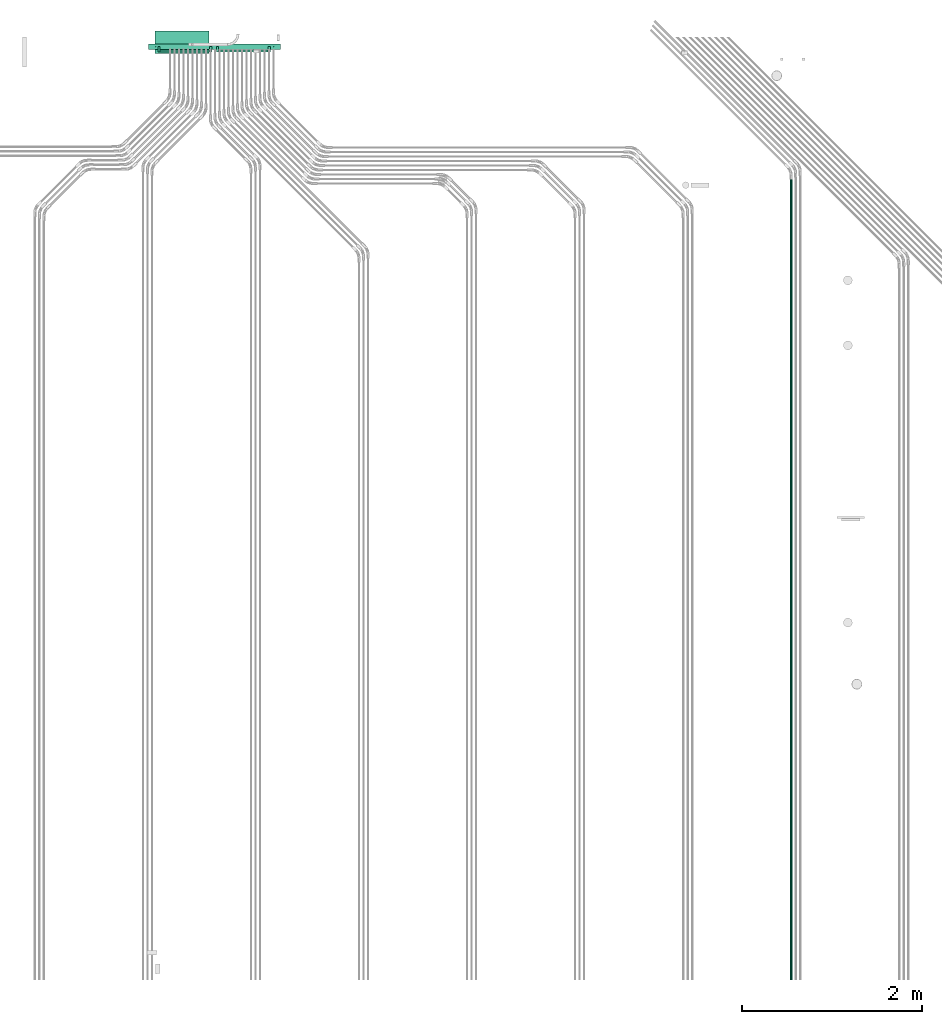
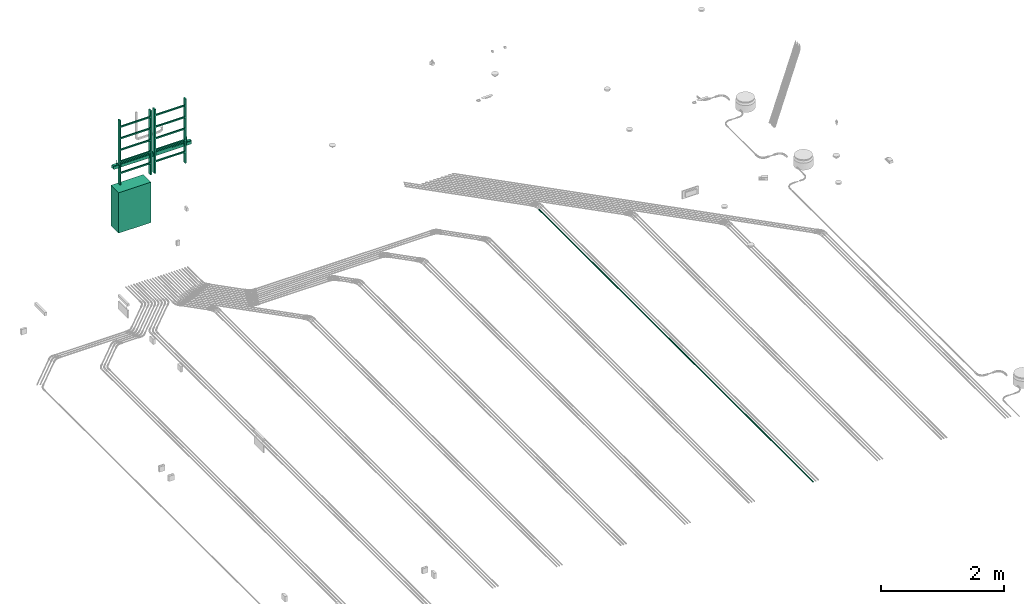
# One storey, part 42 of 51: 3 flow segments, 1 flow controller, 1 flow terminal.
"""IFC2X3 building model written with IfcOpenShell, lengths in millimetres."""

import ifcopenshell
import ifcopenshell.guid

model = None  # the IFC model being written
_history = None  # IfcOwnerHistory: only IFC2X3 demands one
_inside = {}  # id of a spatial element -> (the spatial element, [elements in it])
_under = {}  # id of a project, library or spatial element -> (it, [spatial elements below it])
_declared = {}  # id of a project -> (the project, [libraries it declares])
_typed = {}  # id of a type object -> (the type object, [elements of that type])
_made_of = {}  # id of a material, layer set ... -> (it, [elements and type objects made of it])


def new_model(schema):
    """Start an empty IFC model of exactly this schema.

    Asked for "IFC4X3", IfcOpenShell would pick the latest addendum, in which some entities
    have other attributes; the version numbers below select the first issue.
    IFC2X3 requires an IfcOwnerHistory on every rooted entity: one is made here for all.
    """
    global model, _history
    if schema == "IFC4X3":
        model = ifcopenshell.file(schema_version=(4, 3, 0, 0))
    else:
        model = ifcopenshell.file(schema=schema)
    _inside.clear()
    _under.clear()
    _declared.clear()
    _typed.clear()
    _made_of.clear()
    _history = None
    if model.schema == "IFC2X3":
        org = make("IfcOrganization", Name="unknown")
        user = make(
            "IfcPersonAndOrganization",
            ThePerson=make("IfcPerson", FamilyName="unknown"),
            TheOrganization=org,
        )
        app = make(
            "IfcApplication",
            ApplicationDeveloper=org,
            Version="unknown",
            ApplicationFullName="unknown",
            ApplicationIdentifier="unknown",
        )
        _history = make(
            "IfcOwnerHistory",
            OwningUser=user,
            OwningApplication=app,
            ChangeAction="ADDED",
            CreationDate=0,
        )
    return model


def make(cls, **values):
    """One entity of the class cls with the attributes given. An attribute that is None is left unset."""
    return model.create_entity(
        cls, **{name: value for name, value in values.items() if value is not None}
    )


def entity(cls, *values):
    """Any entity or typed value of the class cls, its attributes in the order of the schema. None: left unset."""
    e = model.create_entity(cls)
    for i, value in enumerate(values):
        if value is not None:
            e[i] = value
    return e


def rooted(cls, **values):
    """An entity with a GlobalId (a new one), such as an element, a storey or a relation."""
    return make(cls, GlobalId=ifcopenshell.guid.new(), OwnerHistory=_history, **values)


def si_unit(unit_type, name, prefix=None):
    """IfcSIUnit, for example si_unit("LENGTHUNIT", "METRE", prefix="MILLI")."""
    return make("IfcSIUnit", UnitType=unit_type, Prefix=prefix, Name=name)


def converted_unit(unit_type, name, factor, base, dimensions=None, offset=None):
    """IfcConversionBasedUnit, such as the inch: factor (a typed value) times the base unit."""
    return make(
        "IfcConversionBasedUnit"
        if offset is None
        else "IfcConversionBasedUnitWithOffset",
        ConversionOffset=offset,
        Dimensions=None
        if dimensions is None
        else entity("IfcDimensionalExponents", *dimensions),
        UnitType=unit_type,
        Name=name,
        ConversionFactor=make(
            "IfcMeasureWithUnit", ValueComponent=factor, UnitComponent=base
        ),
    )


def derived_unit(unit_type, elements):
    """IfcDerivedUnit: a product of units, each with its exponent."""
    return make(
        "IfcDerivedUnit",
        Elements=[
            make("IfcDerivedUnitElement", Unit=unit, Exponent=power)
            for unit, power in elements
        ],
        UnitType=unit_type,
    )


def assignment(units):
    """IfcUnitAssignment: the units of a project."""
    return None if units is None else make("IfcUnitAssignment", Units=units)


def point(xyz):
    """IfcCartesianPoint."""
    return None if xyz is None else make("IfcCartesianPoint", Coordinates=xyz)


def direction(xyz):
    """IfcDirection."""
    return None if xyz is None else make("IfcDirection", DirectionRatios=xyz)


def frame(location, z_axis=None, x_axis=None):
    """IfcAxis2Placement3D, a coordinate frame: its origin and axes. An axis left out is left unset."""
    return make(
        "IfcAxis2Placement3D",
        Location=point(location),
        Axis=direction(z_axis),
        RefDirection=direction(x_axis),
    )


def origin_with_axes():
    """The frame at (0, 0, 0) with the z axis (0, 0, 1) and the x axis (1, 0, 0) written out."""
    return frame((0.0, 0.0, 0.0), z_axis=(0.0, 0.0, 1.0), x_axis=(1.0, 0.0, 0.0))


def place(relative_to, where):
    """IfcLocalPlacement: puts the frame where relative to a parent placement (None: the world)."""
    return make(
        "IfcLocalPlacement", PlacementRelTo=relative_to, RelativePlacement=where
    )


def context(
    kind, dimensions, precision=None, world=None, true_north=None, identifier=None
):
    """IfcGeometricRepresentationContext, for example the 3D "Model" context."""
    return make(
        "IfcGeometricRepresentationContext",
        ContextIdentifier=identifier,
        ContextType=kind,
        CoordinateSpaceDimension=dimensions,
        Precision=precision,
        WorldCoordinateSystem=world,
        TrueNorth=true_north,
    )


def subcontext(parent, identifier, kind, view, scale=None):
    """IfcGeometricRepresentationSubContext, for example "Body" below "Model"."""
    return make(
        "IfcGeometricRepresentationSubContext",
        ContextIdentifier=identifier,
        ContextType=kind,
        ParentContext=parent,
        TargetScale=scale,
        TargetView=view,
    )


def project(units=None, contexts=None):
    """IfcProject with its units and contexts."""
    return rooted(
        "IfcProject",
        Name="project",
        RepresentationContexts=contexts,
        UnitsInContext=assignment(units),
    )


def spatial(cls, under=None, at=None, **own):
    """A site, building, storey or space (cls), placed at a placement, below another one or the project."""
    s = rooted(cls, ObjectPlacement=at, **own)
    if under is not None:
        _under.setdefault(under.id(), (under, []))[1].append(s)
    return s


def faces_of(points, faces, orient=None, outer=None):
    """IfcFace entities. A face is a list of loops; a loop is a list of indices into points, from 0.

    orient and outer hold one flag for each loop. By default every Orientation is true, the
    first loop of a face is its IfcFaceOuterBound and the others are IfcFaceBound.
    """
    made = []
    for i, loops in enumerate(faces):
        bounds = []
        for j, loop in enumerate(loops):
            is_outer = j == 0 if outer is None else outer[i][j]
            bounds.append(
                make(
                    "IfcFaceOuterBound" if is_outer else "IfcFaceBound",
                    Bound=make("IfcPolyLoop", Polygon=[points[k] for k in loop]),
                    Orientation=True if orient is None else orient[i][j],
                )
            )
        made.append(make("IfcFace", Bounds=bounds))
    return made


def open_shell(faces, orient=None, outer=None):
    """The faces of one IfcOpenShell. surface_model builds it on its shared points."""
    return ("IfcOpenShell", faces, orient, outer)


def faceted_brep(points, faces, orient=None, outer=None, voids=None):
    """IfcFacetedBrep: a solid bounded by flat faces; with voids (closed shells), ...WithVoids."""
    shared = [point(p) for p in points]
    hull = make("IfcClosedShell", CfsFaces=faces_of(shared, faces, orient, outer))
    if voids is None:
        return make("IfcFacetedBrep", Outer=hull)
    return make(
        "IfcFacetedBrepWithVoids",
        Outer=hull,
        Voids=[
            make(cls, CfsFaces=faces_of(shared, fs, o, b)) for cls, fs, o, b in voids
        ],
    )


def surface_model(cls, points, shells):
    """IfcFaceBasedSurfaceModel or IfcShellBasedSurfaceModel (cls): surfaces that need not close."""
    shared = [point(p) for p in points]
    made = [make(c, CfsFaces=faces_of(shared, fs, o, b)) for c, fs, o, b in shells]
    if cls == "IfcFaceBasedSurfaceModel":
        return make(cls, FbsmFaces=made)
    return make(cls, SbsmBoundary=made)


def shape(context_of_items, identifier, shape_type, items):
    """IfcShapeRepresentation: the items that make up one representation, for example the "Body"."""
    return make(
        "IfcShapeRepresentation",
        ContextOfItems=context_of_items,
        RepresentationIdentifier=identifier,
        RepresentationType=shape_type,
        Items=items,
    )


def source(mapping_origin, context_of_items, identifier, shape_type, items):
    """IfcRepresentationMap: a shape defined once, which mapped items show again and again."""
    return make(
        "IfcRepresentationMap",
        MappingOrigin=mapping_origin,
        MappedRepresentation=shape(context_of_items, identifier, shape_type, items),
    )


def transform(
    local_origin,
    x_axis=None,
    y_axis=None,
    z_axis=None,
    scale=None,
    scale2=None,
    scale3=None,
    uniform=True,
):
    """IfcCartesianTransformationOperator3D, or its non-uniform kind. x_axis, y_axis, z_axis: its Axis1, 2, 3."""
    if uniform:
        return make(
            "IfcCartesianTransformationOperator3D",
            Axis1=direction(x_axis),
            Axis2=direction(y_axis),
            LocalOrigin=point(local_origin),
            Scale=scale,
            Axis3=direction(z_axis),
        )
    return make(
        "IfcCartesianTransformationOperator3DnonUniform",
        Axis1=direction(x_axis),
        Axis2=direction(y_axis),
        LocalOrigin=point(local_origin),
        Scale=scale,
        Axis3=direction(z_axis),
        Scale2=scale2,
        Scale3=scale3,
    )


def mapped(mapping_source, mapping_target):
    """IfcMappedItem: shows the shape of a source again, moved by a transform."""
    return make(
        "IfcMappedItem", MappingSource=mapping_source, MappingTarget=mapping_target
    )


def made_of(thing, what):
    """Note that an element or type object is made of a material, layer set ...; save() writes the relation."""
    if what is not None:
        _made_of.setdefault(what.id(), (what, []))[1].append(thing)
    return thing


def type_object(cls, material=None, **own):
    """A type object (cls), such as IfcWallType, which elements share."""
    return made_of(rooted(cls, **own), material)


def element(
    cls,
    number,
    at=None,
    inside=None,
    cuts=None,
    type_object=None,
    material=None,
    context=None,
    identifier="Body",
    shape_type=None,
    held_by="IfcProductDefinitionShape",
    body=None,
    shapes=None,
    **own,
):
    """One element of the class cls, such as IfcWall. Its Tag is "e" and its number.

    at: its placement. inside: the storey or other place that contains it. cuts: it is an
    opening in that element (IfcRelVoidsElement). A single representation is given by context,
    identifier, shape_type and body (its items); several are given by shapes. held_by: the class
    of the entity that holds the representations. save() writes the other relations.
    """
    e = rooted(cls, Tag="e%d" % number, ObjectPlacement=at, **own)
    if body is not None:
        shapes = [shape(context, identifier, shape_type, body)]
    if shapes is not None:
        e.Representation = make(held_by, Representations=shapes)
    if inside is not None:
        _inside.setdefault(inside.id(), (inside, []))[1].append(e)
    if cuts is not None:
        rooted(
            "IfcRelVoidsElement", RelatingBuildingElement=cuts, RelatedOpeningElement=e
        )
    if type_object is not None:
        _typed.setdefault(type_object.id(), (type_object, []))[1].append(e)
    return made_of(e, material)


def aggregate(whole, parts):
    """IfcRelAggregates: a whole, such as a stair, and the parts it consists of."""
    return rooted("IfcRelAggregates", RelatingObject=whole, RelatedObjects=parts)


def save(model, path):
    """Write the relations noted so far, then the file.

    IfcRelAggregates (storeys below a building ...), IfcRelContainedInSpatialStructure (elements
    in a storey), IfcRelDefinesByType, IfcRelAssociatesMaterial and IfcRelDeclares: one each for
    every whole, place, type object, material and project.
    """
    for whole, parts in _under.values():
        aggregate(whole, parts)
    for where, things in _inside.values():
        rooted(
            "IfcRelContainedInSpatialStructure",
            RelatedElements=things,
            RelatingStructure=where,
        )
    for kind, things in _typed.values():
        rooted("IfcRelDefinesByType", RelatedObjects=things, RelatingType=kind)
    for what, things in _made_of.values():
        rooted("IfcRelAssociatesMaterial", RelatedObjects=things, RelatingMaterial=what)
    for by, libraries in _declared.values():
        rooted("IfcRelDeclares", RelatingContext=by, RelatedDefinitions=libraries)
    model.write(path)


model = new_model("IFC2X3")

# Units and contexts
model_context = context("Model", 3, precision=0.01, world=frame((0.0, 4.29681676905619e-09, 0.0)), true_north=direction((4.01073788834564e-13, 1.0)))
plan_context = context("Plan", 3, precision=0.01, world=frame((0.0, 4.29681676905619e-09, 0.0)), true_north=direction((4.01073788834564e-13, 1.0)))
body_context = subcontext(model_context, "Body", "Model", "MODEL_VIEW")
ifc_project = project(units=[converted_unit("PLANEANGLEUNIT", "DEGREE", entity("IfcPositiveLengthMeasure", 0.0174532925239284), si_unit("PLANEANGLEUNIT", "RADIAN"), dimensions=[0, 0, 0, 0, 0, 0, 0]), si_unit("AREAUNIT", "SQUARE_METRE"), si_unit("LENGTHUNIT", "METRE", prefix="MILLI"), si_unit("MASSUNIT", "GRAM", prefix="KILO"), si_unit("POWERUNIT", "WATT"), si_unit("PRESSUREUNIT", "PASCAL"), si_unit("FORCEUNIT", "NEWTON", prefix="KILO"), si_unit("ELECTRICVOLTAGEUNIT", "VOLT"), si_unit("ELECTRICCURRENTUNIT", "AMPERE"), si_unit("THERMODYNAMICTEMPERATUREUNIT", "DEGREE_CELSIUS"), si_unit("TIMEUNIT", "SECOND"), si_unit("VOLUMEUNIT", "CUBIC_METRE"), derived_unit("LINEARVELOCITYUNIT", [(si_unit("LENGTHUNIT", "METRE"), 1), (si_unit("TIMEUNIT", "SECOND"), -1)]), derived_unit("VOLUMETRICFLOWRATEUNIT", [(si_unit("VOLUMEUNIT", "CUBIC_METRE"), 1), (si_unit("TIMEUNIT", "SECOND"), -1)]), derived_unit("THERMALTRANSMITTANCEUNIT", [(si_unit("POWERUNIT", "WATT"), 1), (si_unit("THERMODYNAMICTEMPERATUREUNIT", "KELVIN"), -1), (si_unit("AREAUNIT", "SQUARE_METRE"), -1)]), derived_unit("SOUNDPRESSUREUNIT", [(si_unit("PRESSUREUNIT", "PASCAL"), 1)])], contexts=[model_context, plan_context])

# Site, building, storey
site_placement = place(None, frame((0.0, -4.29681676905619e-09, 0.0), z_axis=(0.0, 0.0, 1.0), x_axis=(1.0, 0.0, 0.0)))
site = spatial("IfcSite", under=ifc_project, at=site_placement, Name="ENGM", CompositionType="ELEMENT")
building_placement = place(site_placement, frame((0.0, 4.29681676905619e-09, 0.0), z_axis=(0.0, 0.0, 1.0), x_axis=(1.0, 0.0, 0.0)))
building = spatial("IfcBuilding", under=site, at=building_placement, Name="TI", CompositionType="ELEMENT")
storey_placement = place(building_placement, frame((0.0, 0.0, 210900.0), z_axis=(0.0, 0.0, 1.0), x_axis=(1.0, 0.0, 0.0)))
storey = spatial("IfcBuildingStorey", under=building, at=storey_placement, Name="Nivå F", CompositionType="ELEMENT", Elevation=210900.0)

# Flow controller
shared_shape_1 = source(origin_with_axes(), body_context, "Body", "SurfaceModel", [
    surface_model("IfcShellBasedSurfaceModel", [(-300.0, 250.0, 0.0), (300.0, 250.0, 0.0), (300.0, 0.0, 0.0), (-300.0, 0.0, 0.0), (-300.0, 0.0, 800.0), (300.0, 0.0, 800.0), (300.0, 250.0, 800.0), (-300.0, 250.0, 800.0)], [open_shell([[[0, 1, 2]], [[2, 3, 0]], [[4, 5, 6]], [[6, 7, 4]], [[5, 4, 3]], [[3, 2, 5]], [[4, 7, 0]], [[0, 3, 4]], [[7, 6, 1]], [[1, 0, 7]], [[6, 5, 2]], [[2, 1, 6]]])]),
])
flow_controller_placement = place(storey_placement, frame((600760.0, 699287.5, 1100.0), z_axis=(0.0, 0.0, 1.0), x_axis=(1.0, 0.0, 0.0)))
element("IfcFlowController", 1, at=flow_controller_placement, inside=storey, Name="El. ford. stativ", context=body_context, shape_type="MappedRepresentation", body=[
    mapped(shared_shape_1, transform((0.0, 0.0, 0.0), scale=1.0)),
])

# Flow terminal
light_fixture_type = type_object("IfcLightFixtureType", Name="IB5306 Zumtobel TECTON A SGL L1463 53W LED840 WB LDE WH", PredefinedType="NOTDEFINED")
shared_shape_2 = source(origin_with_axes(), body_context, "Body", "SurfaceModel", [
    surface_model("IfcShellBasedSurfaceModel", [(731.49997, 30.0, -91.31462), (731.49997, 26.97823, -91.31462), (731.49997, 26.97823, -93.76173), (731.49997, 26.97823, -134.0), (731.49997, 26.97823, -149.0), (731.49997, 30.0, -149.0), (731.49997, 24.28929, -93.76173), (731.49997, -24.28929, -93.76173), (731.49997, 24.28929, -79.0), (731.49997, -26.97823, -91.31462), (731.49997, -30.0, -91.31462), (731.49997, -26.97823, -93.76173), (731.49997, -27.0, -134.0), (731.49997, -30.0, -149.0), (731.49997, -27.0, -149.0), (731.49997, -24.28929, -79.0), (-731.49997, -30.0, -91.31462), (-731.49997, -26.97823, -91.31462), (-731.49997, -26.97823, -93.76173), (-731.49997, -27.0, -134.0), (-731.49997, -27.0, -149.0), (-731.49997, -30.0, -149.0), (-731.49997, -24.28929, -93.76173), (-731.49997, 26.97823, -134.0), (-731.49997, -24.28929, -79.0), (-731.49997, 24.28929, -93.76173), (-731.49997, 26.97823, -91.31462), (-731.49997, 30.0, -91.31462), (-731.49997, 26.97823, -93.76173), (-731.49997, 30.0, -149.0), (-731.49997, 26.97823, -149.0), (-731.49997, 24.28929, -79.0), (-656.49997, 2.59808, 1.0), (-654.99999, 3.0, 1.0), (-655.77647, 2.89778, 1.0), (-657.59809, 1.5, 1.0), (-657.1213, 2.12132, 1.0), (-657.89778, 0.77646, 1.0), (-658.00003, 0.0, 1.0), (-653.50001, -2.59808, 1.0), (-652.40189, 1.5, 1.0), (-654.22351, 2.89778, 1.0), (-652.87868, 2.12132, 1.0), (-653.50001, 2.59808, 1.0), (-652.00003, 0.0, 1.0), (-652.1022, 0.77646, 1.0), (-657.59809, -1.5, 1.0), (-655.77647, -2.89778, 1.0), (-657.1213, -2.12132, 1.0), (-654.99999, -3.0, 1.0), (-656.49997, -2.59808, 1.0), (-652.40189, -1.5, 1.0), (-652.1022, -0.77646, 1.0), (-652.87868, -2.12132, 1.0), (-654.22351, -2.89778, 1.0), (-657.89778, -0.77646, 1.0), (653.50001, 2.59808, 1.0), (654.99999, 3.0, 1.0), (654.22351, 2.89778, 1.0), (652.40189, 1.5, 1.0), (652.87868, 2.12132, 1.0), (652.1022, 0.77646, 1.0), (652.00003, 0.0, 1.0), (657.59809, 1.5, 1.0), (655.77647, 2.89778, 1.0), (656.49997, 2.59808, 1.0), (657.1213, 2.12132, 1.0), (658.00003, 0.0, 1.0), (657.89778, 0.77646, 1.0), (652.40189, -1.5, 1.0), (653.50001, -2.59808, 1.0), (652.87868, -2.12132, 1.0), (654.22351, -2.89778, 1.0), (654.99999, -3.0, 1.0), (657.59809, -1.5, 1.0), (657.89778, -0.77646, 1.0), (656.49997, -2.59808, 1.0), (657.1213, -2.12132, 1.0), (655.77647, -2.89778, 1.0), (652.1022, -0.77646, 1.0), (-657.59809, -1.5, -79.0), (-654.99999, -3.0, -79.0), (-655.77647, -2.89778, -79.0), (-657.1213, -2.12132, -79.0), (-656.49997, -2.59808, -79.0), (-653.50001, -2.59808, -79.0), (-656.49997, 2.59808, -79.0), (-652.40189, -1.5, -79.0), (-652.87868, -2.12132, -79.0), (-654.22351, -2.89778, -79.0), (-652.00003, 0.0, -79.0), (-652.1022, -0.77646, -79.0), (-652.40189, 1.5, -79.0), (-657.89778, -0.77646, -79.0), (-658.00003, 0.0, -79.0), (-657.89778, 0.77646, -79.0), (-657.59809, 1.5, -79.0), (-657.1213, 2.12132, -79.0), (-654.99999, 3.0, -79.0), (-655.77647, 2.89778, -79.0), (-654.22351, 2.89778, -79.0), (-652.87868, 2.12132, -79.0), (-652.1022, 0.77646, -79.0), (-653.50001, 2.59808, -79.0), (652.40189, -1.5, -79.0), (654.99999, -3.0, -79.0), (654.22351, -2.89778, -79.0), (653.50001, -2.59808, -79.0), (657.59809, -1.5, -79.0), (652.87868, -2.12132, -79.0), (652.00003, 0.0, -79.0), (658.00003, 0.0, -79.0), (656.49997, -2.59808, -79.0), (657.1213, -2.12132, -79.0), (655.77647, -2.89778, -79.0), (657.89778, -0.77646, -79.0), (652.1022, -0.77646, -79.0), (652.1022, 0.77646, -79.0), (652.40189, 1.5, -79.0), (657.59809, 1.5, -79.0), (653.50001, 2.59808, -79.0), (654.99999, 3.0, -79.0), (652.87868, 2.12132, -79.0), (654.22351, 2.89778, -79.0), (656.49997, 2.59808, -79.0), (657.1213, 2.12132, -79.0), (657.89778, 0.77646, -79.0), (655.77647, 2.89778, -79.0)], [open_shell([[[0, 1, 2]], [[0, 2, 3]], [[4, 5, 3]], [[3, 5, 0]], [[2, 6, 3]], [[7, 3, 6]], [[8, 7, 6]], [[9, 10, 11]], [[11, 10, 12]], [[7, 11, 12]], [[13, 14, 12]], [[10, 13, 12]], [[12, 3, 7]], [[15, 7, 8]], [[16, 17, 18]], [[16, 18, 19]], [[20, 21, 19]], [[19, 21, 16]], [[18, 22, 19]], [[23, 19, 22]], [[24, 25, 22]], [[26, 27, 28]], [[28, 27, 23]], [[25, 28, 23]], [[29, 30, 23]], [[27, 29, 23]], [[23, 22, 25]], [[31, 25, 24]], [[1, 0, 27]], [[27, 26, 1]], [[2, 1, 28]], [[26, 28, 1]], [[6, 2, 28]], [[28, 25, 6]], [[8, 6, 25]], [[25, 31, 8]], [[15, 8, 24]], [[31, 24, 8]], [[13, 10, 16]], [[16, 21, 13]], [[14, 13, 21]], [[21, 20, 14]], [[12, 14, 19]], [[20, 19, 14]], [[3, 12, 23]], [[19, 23, 12]], [[4, 3, 30]], [[23, 30, 3]], [[5, 4, 30]], [[30, 29, 5]], [[0, 5, 29]], [[29, 27, 0]], [[7, 15, 24]], [[24, 22, 7]], [[11, 7, 18]], [[22, 18, 7]], [[9, 11, 17]], [[18, 17, 11]], [[10, 9, 17]], [[17, 16, 10]], [[32, 33, 34]], [[35, 32, 36]], [[35, 37, 38]], [[35, 38, 32]], [[39, 40, 32]], [[41, 42, 43]], [[40, 41, 33]], [[41, 40, 42]], [[33, 32, 40]], [[40, 44, 45]], [[46, 32, 38]], [[32, 46, 39]], [[47, 46, 48]], [[47, 49, 46]], [[47, 48, 50]], [[39, 46, 49]], [[44, 51, 52]], [[51, 44, 39]], [[51, 39, 53]], [[40, 39, 44]], [[49, 54, 39]], [[46, 38, 55]], [[56, 57, 58]], [[59, 56, 60]], [[59, 61, 62]], [[57, 56, 59]], [[63, 59, 62]], [[64, 63, 65]], [[63, 64, 57]], [[65, 63, 66]], [[57, 59, 63]], [[63, 67, 68]], [[63, 62, 67]], [[67, 62, 69]], [[70, 69, 71]], [[72, 73, 69]], [[72, 69, 70]], [[74, 69, 73]], [[67, 74, 75]], [[67, 69, 74]], [[74, 76, 77]], [[74, 73, 76]], [[78, 76, 73]], [[69, 62, 79]], [[80, 81, 82]], [[83, 82, 84]], [[81, 80, 85]], [[80, 82, 83]], [[80, 86, 85]], [[85, 87, 88]], [[85, 89, 81]], [[87, 90, 91]], [[90, 87, 85]], [[85, 92, 90]], [[80, 93, 94]], [[94, 95, 96]], [[94, 96, 86]], [[86, 92, 85]], [[86, 96, 97]], [[98, 86, 99]], [[92, 100, 101]], [[102, 90, 92]], [[101, 100, 103]], [[100, 92, 98]], [[86, 98, 92]], [[80, 94, 86]], [[104, 105, 106]], [[104, 106, 107]], [[105, 104, 108]], [[104, 107, 109]], [[110, 111, 104]], [[112, 108, 113]], [[112, 114, 105]], [[108, 111, 115]], [[112, 105, 108]], [[104, 111, 108]], [[104, 116, 110]], [[110, 117, 118]], [[119, 110, 118]], [[118, 120, 121]], [[120, 118, 122]], [[123, 121, 120]], [[119, 124, 125]], [[126, 111, 119]], [[119, 127, 124]], [[127, 119, 121]], [[118, 121, 119]], [[119, 111, 110]], [[102, 45, 90]], [[92, 40, 102]], [[43, 101, 103]], [[92, 101, 42]], [[41, 103, 100]], [[90, 45, 44]], [[45, 102, 40]], [[33, 41, 100]], [[43, 42, 101]], [[41, 43, 103]], [[40, 92, 42]], [[100, 98, 33]], [[34, 98, 99]], [[86, 34, 99]], [[37, 96, 95]], [[37, 95, 94]], [[34, 86, 32]], [[36, 32, 97]], [[97, 35, 36]], [[97, 96, 35]], [[35, 96, 37]], [[94, 38, 37]], [[86, 97, 32]], [[98, 34, 33]], [[93, 55, 94]], [[80, 46, 93]], [[50, 83, 84]], [[80, 83, 48]], [[47, 84, 82]], [[55, 38, 94]], [[46, 55, 93]], [[81, 49, 47]], [[50, 48, 83]], [[47, 50, 84]], [[46, 80, 48]], [[47, 82, 81]], [[53, 85, 88]], [[51, 87, 91]], [[88, 87, 53]], [[52, 91, 90]], [[54, 89, 39]], [[54, 49, 89]], [[89, 85, 39]], [[39, 85, 53]], [[51, 91, 52]], [[87, 51, 53]], [[90, 44, 52]], [[89, 49, 81]], [[67, 111, 126]], [[68, 126, 119]], [[124, 127, 65]], [[125, 124, 66]], [[119, 125, 63]], [[119, 63, 68]], [[68, 67, 126]], [[64, 121, 57]], [[64, 65, 127]], [[66, 124, 65]], [[66, 63, 125]], [[121, 64, 127]], [[120, 122, 60]], [[123, 120, 56]], [[117, 110, 62]], [[118, 117, 59]], [[122, 118, 60]], [[123, 56, 58]], [[58, 57, 123]], [[59, 60, 118]], [[61, 59, 117]], [[117, 62, 61]], [[60, 56, 120]], [[123, 57, 121]], [[116, 104, 79]], [[110, 116, 62]], [[107, 106, 70]], [[109, 107, 71]], [[104, 109, 69]], [[104, 69, 79]], [[79, 62, 116]], [[73, 106, 105]], [[72, 70, 106]], [[71, 107, 70]], [[71, 69, 109]], [[106, 73, 72]], [[112, 113, 76]], [[114, 112, 78]], [[115, 111, 67]], [[108, 115, 75]], [[113, 108, 74]], [[73, 105, 78]], [[78, 112, 76]], [[76, 113, 77]], [[74, 77, 113]], [[75, 74, 108]], [[115, 67, 75]], [[78, 105, 114]]])]),
])
flow_terminal_placement = place(storey_placement, frame((601120.91823, 699365.93768, 2500.0), z_axis=(0.0, 0.0, 1.0), x_axis=(-1.0, 0.0, 0.0)))
element("IfcFlowTerminal", 2, at=flow_terminal_placement, inside=storey, type_object=light_fixture_type, Name="IB5306 Zumtobel TECTON A SGL L1463 53W LED840 WB LDE WH", context=body_context, shape_type="MappedRepresentation", body=[
    mapped(shared_shape_2, transform((0.0, 0.0, 0.0), scale=1.0)),
])

# Flow segments
cable_carrier_segment_type_1 = type_object("IfcCableCarrierSegmentType", Name="Kabelbro", PredefinedType="CABLELADDERSEGMENT")
flow_segment_1_placement = place(storey_placement, frame((601440.01025, 699334.98711, 2030.0), z_axis=(0.0, 1.0, 0.0), x_axis=(0.0, 0.0, 1.0)))
element("IfcFlowSegment", 3, at=flow_segment_1_placement, inside=storey, type_object=cable_carrier_segment_type_1, Name="Kabelbro", context=body_context, shape_type="Brep", body=[
    faceted_brep([(0.0, -300.0, 30.0), (0.0, -300.0, -30.0), (0.0, -274.60001, -30.0), (0.0, -274.60001, 30.0), (0.0, 274.60001, 30.0), (0.0, 274.60001, -30.0), (0.0, 300.0, -30.0), (0.0, 300.0, 30.0), (241.30001, -274.60001, -30.0), (215.89999, -274.60001, -30.0), (215.89999, -274.60001, -4.6), (241.30001, -274.60001, -4.6), (215.89999, 274.60001, -4.6), (215.89999, 274.60001, -30.0), (241.30001, 274.60001, -30.0), (241.30001, 274.60001, -4.6), (469.89999, -274.60001, -30.0), (444.50001, -274.60001, -30.0), (444.50001, -274.60001, -4.6), (469.89999, -274.60001, -4.6), (444.50001, 274.60001, -4.6), (444.50001, 274.60001, -30.0), (469.89999, 274.60001, -30.0), (469.89999, 274.60001, -4.6), (698.50002, -274.60001, -30.0), (673.09998, -274.60001, -30.0), (673.09998, -274.60001, -4.6), (698.50002, -274.60001, -4.6), (673.09998, 274.60001, -4.6), (673.09998, 274.60001, -30.0), (698.50002, 274.60001, -30.0), (698.50002, 274.60001, -4.6), (901.69998, 274.60001, -4.6), (927.10002, -274.60001, -4.6), (901.69998, -274.60001, -4.6), (927.10002, 274.60001, -4.6), (1130.29998, 274.60001, -4.6), (1155.70002, -274.60001, -4.6), (1130.29998, -274.60001, -4.6), (1155.70002, 274.60001, -4.6), (927.10002, -274.60001, -30.0), (901.69998, -274.60001, -30.0), (901.69998, 274.60001, -30.0), (927.10002, 274.60001, -30.0), (1155.70002, -274.60001, -30.0), (1130.29998, -274.60001, -30.0), (1130.29998, 274.60001, -30.0), (1155.70002, 274.60001, -30.0), (1270.0, -300.0, 7.96057466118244), (1270.0, -300.0, -30.0), (1270.0, -300.0, 30.0), (1270.0, -274.60001, 30.0), (1270.0, -290.669980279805, 30.0), (1270.0, -274.60001, -7.96057466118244), (1270.0, -274.60001, -30.0), (1270.0, -290.669980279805, -30.0), (1270.0, 300.0, -7.96057466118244), (1270.0, 300.0, 30.0), (1270.0, 300.0, -30.0), (1270.0, 283.930029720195, -30.0), (1270.0, 274.60001, -30.0), (1270.0, 274.60001, 7.96057466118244), (1270.0, 274.60001, 30.0), (1270.0, 283.930029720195, 30.0)], [[[0, 1, 2]], [[2, 3, 0]], [[4, 5, 6]], [[6, 7, 4]], [[8, 9, 10]], [[10, 11, 8]], [[12, 13, 14]], [[14, 15, 12]], [[12, 11, 10]], [[11, 12, 15]], [[16, 17, 18]], [[18, 19, 16]], [[20, 21, 22]], [[22, 23, 20]], [[20, 19, 18]], [[19, 20, 23]], [[24, 25, 26]], [[26, 27, 24]], [[28, 29, 30]], [[30, 31, 28]], [[28, 27, 26]], [[27, 28, 31]], [[32, 33, 34]], [[33, 32, 35]], [[36, 37, 38]], [[37, 36, 39]], [[40, 41, 34]], [[34, 33, 40]], [[32, 42, 43]], [[43, 35, 32]], [[44, 45, 38]], [[38, 37, 44]], [[36, 46, 47]], [[47, 39, 36]], [[13, 9, 8]], [[8, 14, 13]], [[21, 17, 16]], [[16, 22, 21]], [[29, 25, 24]], [[24, 30, 29]], [[42, 41, 40]], [[40, 43, 42]], [[46, 45, 44]], [[44, 47, 46]], [[14, 8, 11]], [[11, 15, 14]], [[22, 16, 19]], [[19, 23, 22]], [[30, 24, 27]], [[27, 31, 30]], [[43, 40, 33]], [[33, 35, 43]], [[12, 10, 9]], [[9, 13, 12]], [[20, 18, 17]], [[17, 21, 20]], [[28, 26, 25]], [[25, 29, 28]], [[32, 34, 41]], [[41, 42, 32]], [[47, 44, 37]], [[37, 39, 47]], [[36, 38, 45]], [[45, 46, 36]], [[48, 49, 1, 0]], [[50, 48, 0]], [[51, 52, 0, 3]], [[52, 50, 0]], [[53, 51, 3, 2]], [[54, 53, 2]], [[55, 54, 2, 1]], [[49, 55, 1]], [[56, 57, 7, 6]], [[58, 56, 6]], [[59, 58, 6, 5]], [[60, 59, 5]], [[61, 60, 5, 4]], [[62, 61, 4]], [[57, 63, 4, 7]], [[63, 62, 4]], [[50, 52, 51, 53, 54, 55, 49, 48]], [[58, 59, 60, 61, 62, 63, 57, 56]]], orient=[[False], [False], [False], [False], [False], [False], [False], [False], [False], [False], [False], [False], [False], [False], [False], [False], [False], [False], [False], [False], [False], [False], [False], [False], [False], [False], [False], [False], [False], [False], [False], [False], [False], [False], [False], [False], [False], [False], [False], [False], [False], [False], [False], [False], [False], [False], [False], [False], [False], [False], [False], [False], [False], [False], [False], [False], [False], [False], [False], [False], [False], [False], [False], [False], [False], [False], [False], [False], [False], [False], [False], [False], [False], [False], [False], [False], [False], [False], [False], [False], [False], [False]]),
])
flow_segment_2_placement = place(storey_placement, frame((600790.00342, 699334.98711, 2030.0), z_axis=(0.0, 1.0, 0.0), x_axis=(0.0, 0.0, 1.0)))
element("IfcFlowSegment", 4, at=flow_segment_2_placement, inside=storey, type_object=cable_carrier_segment_type_1, Name="Kabelbro", context=body_context, shape_type="Brep", body=[
    faceted_brep([(0.0, -300.0, 30.0), (0.0, -300.0, -30.0), (0.0, -274.60001, -30.0), (0.0, -274.60001, 30.0), (0.0, 274.60001, 30.0), (0.0, 274.60001, -30.0), (0.0, 300.0, -30.0), (0.0, 300.0, 30.0), (241.30001, -274.60001, -30.0), (215.89999, -274.60001, -30.0), (215.89999, -274.60001, -4.6), (241.30001, -274.60001, -4.6), (215.89999, 274.60001, -4.6), (215.89999, 274.60001, -30.0), (241.30001, 274.60001, -30.0), (241.30001, 274.60001, -4.6), (469.89999, -274.60001, -30.0), (444.50001, -274.60001, -30.0), (444.50001, -274.60001, -4.6), (469.89999, -274.60001, -4.6), (444.50001, 274.60001, -4.6), (444.50001, 274.60001, -30.0), (469.89999, 274.60001, -30.0), (469.89999, 274.60001, -4.6), (698.50002, -274.60001, -30.0), (673.09998, -274.60001, -30.0), (673.09998, -274.60001, -4.6), (698.50002, -274.60001, -4.6), (673.09998, 274.60001, -4.6), (673.09998, 274.60001, -30.0), (698.50002, 274.60001, -30.0), (698.50002, 274.60001, -4.6), (901.69998, 274.60001, -4.6), (927.10002, -274.60001, -4.6), (901.69998, -274.60001, -4.6), (927.10002, 274.60001, -4.6), (1130.29998, 274.60001, -4.6), (1155.70002, -274.60001, -4.6), (1130.29998, -274.60001, -4.6), (1155.70002, 274.60001, -4.6), (927.10002, -274.60001, -30.0), (901.69998, -274.60001, -30.0), (901.69998, 274.60001, -30.0), (927.10002, 274.60001, -30.0), (1155.70002, -274.60001, -30.0), (1130.29998, -274.60001, -30.0), (1130.29998, 274.60001, -30.0), (1155.70002, 274.60001, -30.0), (1270.0, -300.0, 7.96057466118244), (1270.0, -300.0, -30.0), (1270.0, -300.0, 30.0), (1270.0, -274.60001, 30.0), (1270.0, -290.669980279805, 30.0), (1270.0, -274.60001, -7.96057466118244), (1270.0, -274.60001, -30.0), (1270.0, -290.669980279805, -30.0), (1270.0, 300.0, -7.96057466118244), (1270.0, 300.0, 30.0), (1270.0, 300.0, -30.0), (1270.0, 283.930029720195, -30.0), (1270.0, 274.60001, -30.0), (1270.0, 274.60001, 7.96057466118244), (1270.0, 274.60001, 30.0), (1270.0, 283.930029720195, 30.0)], [[[0, 1, 2]], [[2, 3, 0]], [[4, 5, 6]], [[6, 7, 4]], [[8, 9, 10]], [[10, 11, 8]], [[12, 13, 14]], [[14, 15, 12]], [[12, 11, 10]], [[11, 12, 15]], [[16, 17, 18]], [[18, 19, 16]], [[20, 21, 22]], [[22, 23, 20]], [[20, 19, 18]], [[19, 20, 23]], [[24, 25, 26]], [[26, 27, 24]], [[28, 29, 30]], [[30, 31, 28]], [[28, 27, 26]], [[27, 28, 31]], [[32, 33, 34]], [[33, 32, 35]], [[36, 37, 38]], [[37, 36, 39]], [[40, 41, 34]], [[34, 33, 40]], [[32, 42, 43]], [[43, 35, 32]], [[44, 45, 38]], [[38, 37, 44]], [[36, 46, 47]], [[47, 39, 36]], [[13, 9, 8]], [[8, 14, 13]], [[21, 17, 16]], [[16, 22, 21]], [[29, 25, 24]], [[24, 30, 29]], [[42, 41, 40]], [[40, 43, 42]], [[46, 45, 44]], [[44, 47, 46]], [[14, 8, 11]], [[11, 15, 14]], [[22, 16, 19]], [[19, 23, 22]], [[30, 24, 27]], [[27, 31, 30]], [[43, 40, 33]], [[33, 35, 43]], [[12, 10, 9]], [[9, 13, 12]], [[20, 18, 17]], [[17, 21, 20]], [[28, 26, 25]], [[25, 29, 28]], [[32, 34, 41]], [[41, 42, 32]], [[47, 44, 37]], [[37, 39, 47]], [[36, 38, 45]], [[45, 46, 36]], [[48, 49, 1, 0]], [[50, 48, 0]], [[51, 52, 0, 3]], [[52, 50, 0]], [[53, 51, 3, 2]], [[54, 53, 2]], [[55, 54, 2, 1]], [[49, 55, 1]], [[56, 57, 7, 6]], [[58, 56, 6]], [[59, 58, 6, 5]], [[60, 59, 5]], [[61, 60, 5, 4]], [[62, 61, 4]], [[57, 63, 4, 7]], [[63, 62, 4]], [[50, 52, 51, 53, 54, 55, 49, 48]], [[58, 59, 60, 61, 62, 63, 57, 56]]], orient=[[False], [False], [False], [False], [False], [False], [False], [False], [False], [False], [False], [False], [False], [False], [False], [False], [False], [False], [False], [False], [False], [False], [False], [False], [False], [False], [False], [False], [False], [False], [False], [False], [False], [False], [False], [False], [False], [False], [False], [False], [False], [False], [False], [False], [False], [False], [False], [False], [False], [False], [False], [False], [False], [False], [False], [False], [False], [False], [False], [False], [False], [False], [False], [False], [False], [False], [False], [False], [False], [False], [False], [False], [False], [False], [False], [False], [False], [False], [False], [False], [False], [False]]),
])
cable_carrier_segment_type_2 = type_object("IfcCableCarrierSegmentType", Name="Trekkerør, korrugert", PredefinedType="CONDUITSEGMENT")
flow_segment_3_placement = place(storey_placement, frame((607524.59, 697889.92071, -56.7999999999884), z_axis=(0.0, 0.0, 1.0), x_axis=(0.0, -1.0, 0.0)))
element("IfcFlowSegment", 5, at=flow_segment_3_placement, inside=storey, type_object=cable_carrier_segment_type_2, Name="Trekkerør, korrugert", context=body_context, shape_type="Brep", body=[
    faceted_brep([(8889.92071000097, 10.5, 0.0), (8889.92071000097, 10.3404814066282, -1.82330586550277), (0.0, 10.3404814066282, -1.82330586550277), (0.0, 10.5, 0.0), (8889.92071000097, 9.86677251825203, -3.59121150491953), (0.0, 9.86677251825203, -3.59121150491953), (8889.92071000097, 9.0932667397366, -5.25), (0.0, 9.0932667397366, -5.25), (8889.92071000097, 8.04346665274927, -6.74926990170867), (0.0, 8.04346665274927, -6.74926990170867), (8889.92071000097, 6.74926990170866, -8.04346665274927), (0.0, 6.74926990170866, -8.04346665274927), (8889.92071000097, 5.25, -9.09326673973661), (0.0, 5.25, -9.09326673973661), (8889.92071000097, 3.59121150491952, -9.86677251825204), (0.0, 3.59121150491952, -9.86677251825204), (8889.92071000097, 1.82330586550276, -10.3404814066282), (0.0, 1.82330586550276, -10.3404814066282), (8889.92071000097, -1.92881870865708e-15, -10.5), (0.0, -1.92881870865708e-15, -10.5), (8889.92071000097, -1.82330586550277, -10.3404814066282), (0.0, -1.82330586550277, -10.3404814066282), (8889.92071000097, -3.59121150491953, -9.86677251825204), (0.0, -3.59121150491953, -9.86677251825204), (8889.92071000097, -5.25, -9.0932667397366), (0.0, -5.25, -9.0932667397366), (8889.92071000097, -6.74926990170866, -8.04346665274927), (0.0, -6.74926990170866, -8.04346665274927), (8889.92071000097, -8.04346665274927, -6.74926990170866), (0.0, -8.04346665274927, -6.74926990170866), (8889.92071000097, -9.09326673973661, -5.25), (0.0, -9.09326673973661, -5.25), (8889.92071000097, -9.86677251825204, -3.59121150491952), (0.0, -9.86677251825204, -3.59121150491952), (8889.92071000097, -10.3404814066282, -1.82330586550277), (0.0, -10.3404814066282, -1.82330586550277), (8889.92071000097, -10.5, 1.28587913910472e-15), (0.0, -10.5, 1.28587913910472e-15), (8889.92071000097, -10.3404814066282, 1.82330586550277), (0.0, -10.3404814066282, 1.82330586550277), (8889.92071000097, -9.86677251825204, 3.59121150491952), (0.0, -9.86677251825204, 3.59121150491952), (8889.92071000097, -9.09326673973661, 5.25), (0.0, -9.09326673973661, 5.25), (8889.92071000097, -8.04346665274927, 6.74926990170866), (0.0, -8.04346665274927, 6.74926990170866), (8889.92071000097, -6.74926990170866, 8.04346665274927), (0.0, -6.74926990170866, 8.04346665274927), (8889.92071000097, -5.25, 9.09326673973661), (0.0, -5.25, 9.09326673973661), (8889.92071000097, -3.59121150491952, 9.86677251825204), (0.0, -3.59121150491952, 9.86677251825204), (8889.92071000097, -1.82330586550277, 10.3404814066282), (0.0, -1.82330586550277, 10.3404814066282), (8889.92071000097, 6.4293956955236e-16, 10.5), (0.0, 6.4293956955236e-16, 10.5), (8889.92071000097, 1.82330586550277, 10.3404814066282), (0.0, 1.82330586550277, 10.3404814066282), (8889.92071000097, 3.59121150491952, 9.86677251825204), (0.0, 3.59121150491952, 9.86677251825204), (8889.92071000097, 5.25, 9.09326673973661), (0.0, 5.25, 9.09326673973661), (8889.92071000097, 6.74926990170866, 8.04346665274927), (0.0, 6.74926990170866, 8.04346665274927), (8889.92071000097, 8.04346665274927, 6.74926990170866), (0.0, 8.04346665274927, 6.74926990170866), (8889.92071000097, 9.09326673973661, 5.25), (0.0, 9.09326673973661, 5.25), (8889.92071000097, 9.86677251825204, 3.59121150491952), (0.0, 9.86677251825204, 3.59121150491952), (8889.92071000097, 10.3404814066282, 1.82330586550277), (0.0, 10.3404814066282, 1.82330586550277), (8889.92071000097, 12.3100969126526, -2.17060222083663), (8889.92071000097, 12.5, 0.0), (0.0, 12.5, 0.0), (0.0, 12.3100969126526, -2.17060222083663), (8889.92071000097, 12.3100969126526, 2.17060222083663), (0.0, 12.3100969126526, 2.17060222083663), (8889.92071000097, 11.7461577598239, 4.27525179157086), (0.0, 11.7461577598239, 4.27525179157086), (8889.92071000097, 10.8253175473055, 6.25), (0.0, 10.8253175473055, 6.25), (8889.92071000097, 9.57555553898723, 8.03484512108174), (0.0, 9.57555553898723, 8.03484512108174), (8889.92071000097, 8.03484512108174, 9.57555553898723), (0.0, 8.03484512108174, 9.57555553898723), (8889.92071000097, 6.25, 10.8253175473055), (0.0, 6.25, 10.8253175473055), (8889.92071000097, 4.27525179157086, 11.7461577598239), (0.0, 4.27525179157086, 11.7461577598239), (8889.92071000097, 2.17060222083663, 12.3100969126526), (0.0, 2.17060222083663, 12.3100969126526), (8889.92071000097, 7.65404249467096e-16, 12.5), (0.0, 7.65404249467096e-16, 12.5), (8889.92071000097, -2.17060222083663, 12.3100969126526), (0.0, -2.17060222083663, 12.3100969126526), (8889.92071000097, -4.27525179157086, 11.7461577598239), (0.0, -4.27525179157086, 11.7461577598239), (8889.92071000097, -6.25, 10.8253175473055), (0.0, -6.25, 10.8253175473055), (8889.92071000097, -8.03484512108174, 9.57555553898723), (0.0, -8.03484512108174, 9.57555553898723), (8889.92071000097, -9.57555553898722, 8.03484512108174), (0.0, -9.57555553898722, 8.03484512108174), (8889.92071000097, -10.8253175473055, 6.25), (0.0, -10.8253175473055, 6.25), (8889.92071000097, -11.7461577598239, 4.27525179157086), (0.0, -11.7461577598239, 4.27525179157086), (8889.92071000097, -12.3100969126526, 2.17060222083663), (0.0, -12.3100969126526, 2.17060222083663), (8889.92071000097, -12.5, 1.53080849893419e-15), (0.0, -12.5, 1.53080849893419e-15), (8889.92071000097, -12.3100969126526, -2.17060222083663), (0.0, -12.3100969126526, -2.17060222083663), (8889.92071000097, -11.7461577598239, -4.27525179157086), (0.0, -11.7461577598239, -4.27525179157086), (8889.92071000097, -10.8253175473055, -6.25), (0.0, -10.8253175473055, -6.25), (8889.92071000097, -9.57555553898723, -8.03484512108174), (0.0, -9.57555553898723, -8.03484512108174), (8889.92071000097, -8.03484512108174, -9.57555553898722), (0.0, -8.03484512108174, -9.57555553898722), (8889.92071000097, -6.25000000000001, -10.8253175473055), (0.0, -6.25000000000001, -10.8253175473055), (8889.92071000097, -4.27525179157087, -11.7461577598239), (0.0, -4.27525179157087, -11.7461577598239), (8889.92071000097, -2.17060222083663, -12.3100969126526), (0.0, -2.17060222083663, -12.3100969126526), (8889.92071000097, -2.29621274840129e-15, -12.5), (0.0, -2.29621274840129e-15, -12.5), (8889.92071000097, 2.17060222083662, -12.3100969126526), (0.0, 2.17060222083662, -12.3100969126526), (8889.92071000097, 4.27525179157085, -11.7461577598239), (0.0, 4.27525179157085, -11.7461577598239), (8889.92071000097, 6.25, -10.8253175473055), (0.0, 6.25, -10.8253175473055), (8889.92071000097, 8.03484512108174, -9.57555553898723), (0.0, 8.03484512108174, -9.57555553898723), (8889.92071000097, 9.57555553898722, -8.03484512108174), (0.0, 9.57555553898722, -8.03484512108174), (8889.92071000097, 10.8253175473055, -6.25000000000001), (0.0, 10.8253175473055, -6.25000000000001), (8889.92071000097, 11.7461577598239, -4.27525179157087), (0.0, 11.7461577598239, -4.27525179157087)], [[[0, 1, 2, 3]], [[1, 4, 5, 2]], [[4, 6, 7, 5]], [[6, 8, 9, 7]], [[8, 10, 11, 9]], [[10, 12, 13, 11]], [[12, 14, 15, 13]], [[14, 16, 17, 15]], [[16, 18, 19, 17]], [[18, 20, 21, 19]], [[20, 22, 23, 21]], [[22, 24, 25, 23]], [[24, 26, 27, 25]], [[26, 28, 29, 27]], [[28, 30, 31, 29]], [[30, 32, 33, 31]], [[32, 34, 35, 33]], [[34, 36, 37, 35]], [[36, 38, 39, 37]], [[38, 40, 41, 39]], [[40, 42, 43, 41]], [[42, 44, 45, 43]], [[44, 46, 47, 45]], [[46, 48, 49, 47]], [[48, 50, 51, 49]], [[50, 52, 53, 51]], [[52, 54, 55, 53]], [[54, 56, 57, 55]], [[56, 58, 59, 57]], [[58, 60, 61, 59]], [[60, 62, 63, 61]], [[62, 64, 65, 63]], [[64, 66, 67, 65]], [[66, 68, 69, 67]], [[68, 70, 71, 69]], [[70, 0, 3, 71]], [[72, 73, 74, 75]], [[73, 76, 77, 74]], [[76, 78, 79, 77]], [[78, 80, 81, 79]], [[80, 82, 83, 81]], [[82, 84, 85, 83]], [[84, 86, 87, 85]], [[86, 88, 89, 87]], [[88, 90, 91, 89]], [[90, 92, 93, 91]], [[92, 94, 95, 93]], [[94, 96, 97, 95]], [[96, 98, 99, 97]], [[98, 100, 101, 99]], [[100, 102, 103, 101]], [[102, 104, 105, 103]], [[104, 106, 107, 105]], [[106, 108, 109, 107]], [[108, 110, 111, 109]], [[110, 112, 113, 111]], [[112, 114, 115, 113]], [[114, 116, 117, 115]], [[116, 118, 119, 117]], [[118, 120, 121, 119]], [[120, 122, 123, 121]], [[122, 124, 125, 123]], [[124, 126, 127, 125]], [[126, 128, 129, 127]], [[128, 130, 131, 129]], [[130, 132, 133, 131]], [[132, 134, 135, 133]], [[134, 136, 137, 135]], [[136, 138, 139, 137]], [[138, 140, 141, 139]], [[140, 142, 143, 141]], [[142, 72, 75, 143]], [[75, 74, 77, 79, 81, 83, 85, 87, 89, 91, 93, 95, 97, 99, 101, 103, 105, 107, 109, 111, 113, 115, 117, 119, 121, 123, 125, 127, 129, 131, 133, 135, 137, 139, 141, 143], [3, 2, 5, 7, 9, 11, 13, 15, 17, 19, 21, 23, 25, 27, 29, 31, 33, 35, 37, 39, 41, 43, 45, 47, 49, 51, 53, 55, 57, 59, 61, 63, 65, 67, 69, 71]], [[142, 140, 138, 136, 134, 132, 130, 128, 126, 124, 122, 120, 118, 116, 114, 112, 110, 108, 106, 104, 102, 100, 98, 96, 94, 92, 90, 88, 86, 84, 82, 80, 78, 76, 73, 72], [70, 68, 66, 64, 62, 60, 58, 56, 54, 52, 50, 48, 46, 44, 42, 40, 38, 36, 34, 32, 30, 28, 26, 24, 22, 20, 18, 16, 14, 12, 10, 8, 6, 4, 1, 0]]], orient=[[False], [False], [False], [False], [False], [False], [False], [False], [False], [False], [False], [False], [False], [False], [False], [False], [False], [False], [False], [False], [False], [False], [False], [False], [False], [False], [False], [False], [False], [False], [False], [False], [False], [False], [False], [False], [False], [False], [False], [False], [False], [False], [False], [False], [False], [False], [False], [False], [False], [False], [False], [False], [False], [False], [False], [False], [False], [False], [False], [False], [False], [False], [False], [False], [False], [False], [False], [False], [False], [False], [False], [False], [False, False], [False, False]]),
])

save(model, "model.ifc")
